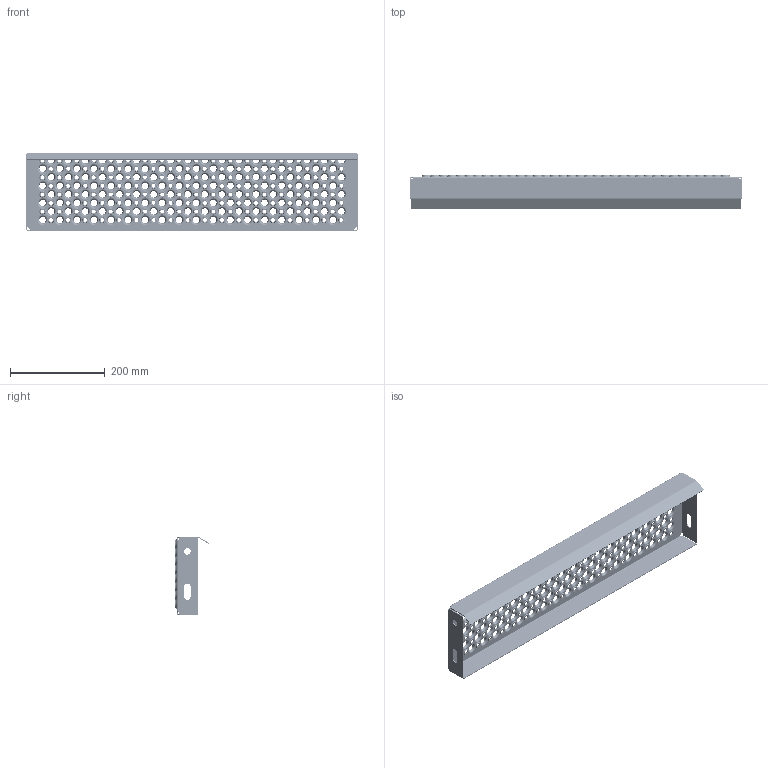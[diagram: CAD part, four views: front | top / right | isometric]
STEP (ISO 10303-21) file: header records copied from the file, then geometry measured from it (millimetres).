
FILE_DESCRIPTION (( 'STEP AP203' ), '1' );
FILE_NAME ('80241607G_Lejdertrin_165x700x45_mm_.STEP', '2015-01-08T08:42:26', ( '' ), ( '' ), 'SwSTEP 2.0', 'SolidWorks 2013', '' );
FILE_SCHEMA (( 'CONFIG_CONTROL_DESIGN' ));
Length unit declared in the file: millimetre
Products named in the file (1): 80241607G_Lejdertrin_165x700x45_mm_
Bounding box: 700 x 71.67 x 165 mm (x, y, z)
Volume: 388990.7 mm3; surface area: 414714.5 mm2
Topology: 1 solids, 1 shells, 1516 faces, 4214 edges, 2700 vertices
Faces by surface type: cone 864, torus 576, cylinder 36, plane 32, bspline 8
Full cylindrical faces by diameter (mm): 14 x2
Entity records: 35489 total; most frequent: DIRECTION 6678, CARTESIAN_POINT 5761, ORIENTED_EDGE 3816, EDGE_LOOP 3542, AXIS2_PLACEMENT_3D 3293, FACE_OUTER_BOUND 2094, EDGE_CURVE 1908, VERTEX_POINT 1836
